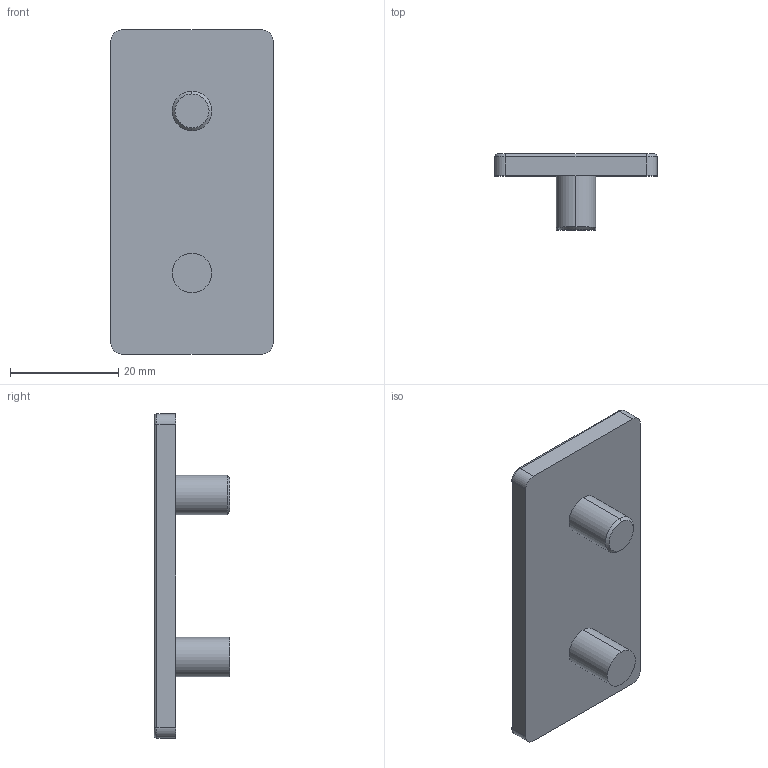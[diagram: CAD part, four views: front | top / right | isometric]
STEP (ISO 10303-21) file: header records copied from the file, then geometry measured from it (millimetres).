
FILE_DESCRIPTION (( 'STEP AP214' ), '1' );
FILE_NAME ('3060-cover.STEP', '2019-01-04T16:28:33', ( '' ), ( '' ), 'SwSTEP 2.0', 'SolidWorks 2018', '' );
FILE_SCHEMA (( 'AUTOMOTIVE_DESIGN' ));
Length unit declared in the file: millimetre
Products named in the file (1): 3060-cover
Bounding box: 30 x 14 x 60 mm (x, y, z)
Volume: 8011.2 mm3; surface area: 4713 mm2
Topology: 1 solids, 1 shells, 26 faces, 56 edges, 34 vertices
Faces by surface type: cylinder 12, plane 8, torus 4, cone 2
Entity records: 744 total; most frequent: DIRECTION 140, CARTESIAN_POINT 117, ORIENTED_EDGE 112, AXIS2_PLACEMENT_3D 57, EDGE_CURVE 56, VERTEX_POINT 34, CIRCLE 30, EDGE_LOOP 28
